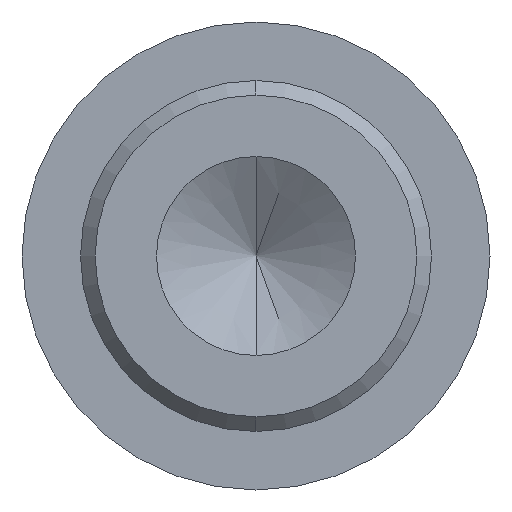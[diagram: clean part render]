
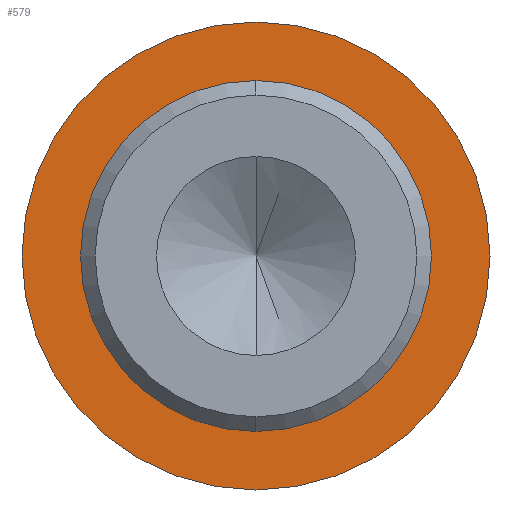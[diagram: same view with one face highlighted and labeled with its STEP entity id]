
A CAD part, left-side view. The second image highlights one B-rep face of the part: STEP entity #579.
In plain terms, the highlighted planar face has unit normal (-1, 0, 0).
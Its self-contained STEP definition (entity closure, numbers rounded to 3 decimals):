
#89 = VERTEX_POINT ( 'NONE', #459 ) ;
#90 = VERTEX_POINT ( 'NONE', #432 ) ;
#101 = VERTEX_POINT ( 'NONE', #427 ) ;
#122 = VERTEX_POINT ( 'NONE', #177 ) ;
#159 = CARTESIAN_POINT ( 'NONE',  ( -22., 0., 0. ) ) ;
#165 = DIRECTION ( 'NONE',  ( 0., 0., 1. ) ) ;
#177 = CARTESIAN_POINT ( 'NONE',  ( -22., 0., 8. ) ) ;
#254 = ORIENTED_EDGE ( 'NONE', *, *, #379, .F. ) ;
#263 = ORIENTED_EDGE ( 'NONE', *, *, #376, .F. ) ;
#294 = DIRECTION ( 'NONE',  ( -1., 0., 0. ) ) ;
#297 = CARTESIAN_POINT ( 'NONE',  ( -22., 0., 0. ) ) ;
#308 = ORIENTED_EDGE ( 'NONE', *, *, #381, .T. ) ;
#310 = ORIENTED_EDGE ( 'NONE', *, *, #374, .T. ) ;
#374 = EDGE_CURVE ( 'NONE', #122, #101, #656, .T. ) ;
#376 = EDGE_CURVE ( 'NONE', #90, #89, #620, .T. ) ;
#379 = EDGE_CURVE ( 'NONE', #89, #90, #679, .T. ) ;
#381 = EDGE_CURVE ( 'NONE', #101, #122, #638, .T. ) ;
#427 = CARTESIAN_POINT ( 'NONE',  ( -22., 0., -8. ) ) ;
#432 = CARTESIAN_POINT ( 'NONE',  ( -22., 0., 6. ) ) ;
#459 = CARTESIAN_POINT ( 'NONE',  ( -22., 0., -6. ) ) ;
#470 = DIRECTION ( 'NONE',  ( 0., 0., 1. ) ) ;
#471 = DIRECTION ( 'NONE',  ( -1., 0., 0. ) ) ;
#479 = AXIS2_PLACEMENT_3D ( 'NONE', #952, #960, #961 ) ;
#539 = EDGE_LOOP ( 'NONE', ( #263, #254 ) ) ;
#562 = EDGE_LOOP ( 'NONE', ( #310, #308 ) ) ;
#579 = ADVANCED_FACE ( 'NONE', ( #957, #953 ), #958, .F. ) ;
#620 = CIRCLE ( 'NONE', #721, 6. ) ;
#630 = AXIS2_PLACEMENT_3D ( 'NONE', #734, #735, #736 ) ;
#638 = CIRCLE ( 'NONE', #630, 8. ) ;
#639 = AXIS2_PLACEMENT_3D ( 'NONE', #728, #729, #730 ) ;
#656 = CIRCLE ( 'NONE', #657, 8. ) ;
#657 = AXIS2_PLACEMENT_3D ( 'NONE', #159, #471, #470 ) ;
#679 = CIRCLE ( 'NONE', #639, 6. ) ;
#721 = AXIS2_PLACEMENT_3D ( 'NONE', #297, #294, #165 ) ;
#728 = CARTESIAN_POINT ( 'NONE',  ( -22., 0., 0. ) ) ;
#729 = DIRECTION ( 'NONE',  ( -1., 0., 0. ) ) ;
#730 = DIRECTION ( 'NONE',  ( 0., 0., 1. ) ) ;
#734 = CARTESIAN_POINT ( 'NONE',  ( -22., 0., 0. ) ) ;
#735 = DIRECTION ( 'NONE',  ( -1., 0., 0. ) ) ;
#736 = DIRECTION ( 'NONE',  ( 0., 0., 1. ) ) ;
#952 = CARTESIAN_POINT ( 'NONE',  ( -22., 6., 0. ) ) ;
#953 = FACE_OUTER_BOUND ( 'NONE', #562, .T. ) ;
#957 = FACE_BOUND ( 'NONE', #539, .T. ) ;
#958 = PLANE ( 'NONE',  #479 ) ;
#960 = DIRECTION ( 'NONE',  ( 1., 0., 0. ) ) ;
#961 = DIRECTION ( 'NONE',  ( 0., 0., -1. ) ) ;
